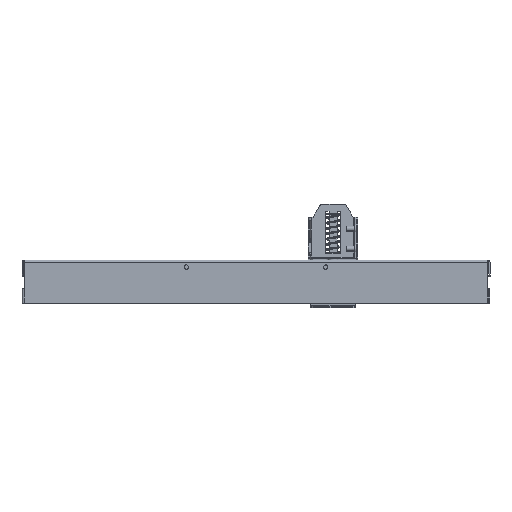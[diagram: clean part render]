
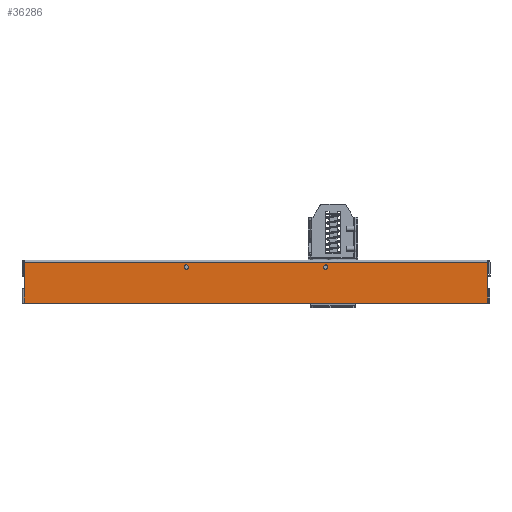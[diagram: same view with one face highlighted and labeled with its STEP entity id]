
A CAD part, front view. The second image highlights one B-rep face of the part: STEP entity #36286.
In plain terms, the highlighted planar face has unit normal (0, -1, 0).
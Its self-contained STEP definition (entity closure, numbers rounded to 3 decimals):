
#33186=CARTESIAN_POINT(' ',(-232.793,-82.5,-2.1));
#33187=VERTEX_POINT(' ',#33186);
#33201=CARTESIAN_POINT(' ',(232.793,-82.5,-2.1));
#33206=DIRECTION(' ',(-1.,0.,0.));
#33211=VECTOR(' ',#33206,1.);
#33216=LINE('',#33201,#33211);
#33221=CARTESIAN_POINT(' ',(232.793,-82.5,-2.1));
#33222=VERTEX_POINT(' ',#33221);
#33226=EDGE_CURVE(' ',#33222,#33187,#33216,.T.);
#35896=DIRECTION(' ',(0.,-1.,0.));
#35901=CARTESIAN_POINT(' ',(-232.793,-82.5,-2.1));
#35906=DIRECTION(' ',(0.,0.,-1.));
#35911=AXIS2_PLACEMENT_3D(' ',#35901,#35896,#35906);
#35916=PLANE('NONE',#35911);
#35921=CARTESIAN_POINT(' ',(-232.793,-82.5,-43.5));
#35926=DIRECTION(' ',(0.,0.,1.));
#35931=VECTOR(' ',#35926,1.);
#35936=LINE('',#35921,#35931);
#35941=CARTESIAN_POINT(' ',(-232.793,-82.5,-43.5));
#35942=VERTEX_POINT(' ',#35941);
#35946=CARTESIAN_POINT(' ',(-232.793,-82.5,-28.5));
#35947=VERTEX_POINT(' ',#35946);
#35951=EDGE_CURVE(' ',#35942,#35947,#35936,.T.);
#35956=ORIENTED_EDGE(' ',*,*,#35951,.F.);
#35961=CARTESIAN_POINT(' ',(232.793,-82.5,-43.5));
#35966=DIRECTION(' ',(-1.,0.,0.));
#35971=VECTOR(' ',#35966,1.);
#35976=LINE('',#35961,#35971);
#35981=CARTESIAN_POINT(' ',(232.793,-82.5,-43.5));
#35982=VERTEX_POINT(' ',#35981);
#35986=EDGE_CURVE(' ',#35982,#35942,#35976,.T.);
#35991=ORIENTED_EDGE(' ',*,*,#35986,.F.);
#35996=CARTESIAN_POINT(' ',(232.793,-82.5,-43.5));
#36001=DIRECTION(' ',(0.,0.,1.));
#36006=VECTOR(' ',#36001,1.);
#36011=LINE('',#35996,#36006);
#36016=CARTESIAN_POINT(' ',(232.793,-82.5,-28.5));
#36017=VERTEX_POINT(' ',#36016);
#36021=EDGE_CURVE(' ',#35982,#36017,#36011,.T.);
#36026=ORIENTED_EDGE(' ',*,*,#36021,.T.);
#36031=CARTESIAN_POINT(' ',(232.793,-82.5,-28.5));
#36036=DIRECTION(' ',(0.,0.,1.));
#36041=VECTOR(' ',#36036,1.);
#36046=LINE('',#36031,#36041);
#36051=EDGE_CURVE(' ',#36017,#33222,#36046,.T.);
#36056=ORIENTED_EDGE(' ',*,*,#36051,.T.);
#36061=ORIENTED_EDGE(' ',*,*,#33226,.T.);
#36066=CARTESIAN_POINT(' ',(-232.793,-82.5,-28.5));
#36071=DIRECTION(' ',(0.,0.,1.));
#36076=VECTOR(' ',#36071,1.);
#36081=LINE('',#36066,#36076);
#36086=EDGE_CURVE(' ',#35947,#33187,#36081,.T.);
#36091=ORIENTED_EDGE(' ',*,*,#36086,.F.);
#36096=EDGE_LOOP(' ',(#35956,#35991,#36026,#36056,#36061,#36091));
#36101=FACE_OUTER_BOUND(' ',#36096,.T.);
#36106=CARTESIAN_POINT(' ',(70.,-82.5,-7.));
#36111=DIRECTION(' ',(0.,-1.,0.));
#36116=DIRECTION(' ',(0.,0.,-1.));
#36121=AXIS2_PLACEMENT_3D(' ',#36106,#36111,#36116);
#36126=CIRCLE('',#36121,2.1);
#36131=CARTESIAN_POINT(' ',(70.,-82.5,-9.1));
#36132=VERTEX_POINT(' ',#36131);
#36136=CARTESIAN_POINT(' ',(70.,-82.5,-4.9));
#36137=VERTEX_POINT(' ',#36136);
#36141=EDGE_CURVE(' ',#36132,#36137,#36126,.T.);
#36146=ORIENTED_EDGE(' ',*,*,#36141,.F.);
#36151=CARTESIAN_POINT(' ',(70.,-82.5,-7.));
#36156=DIRECTION(' ',(0.,-1.,0.));
#36161=DIRECTION(' ',(0.,0.,1.));
#36166=AXIS2_PLACEMENT_3D(' ',#36151,#36156,#36161);
#36171=CIRCLE('',#36166,2.1);
#36176=EDGE_CURVE(' ',#36137,#36132,#36171,.T.);
#36181=ORIENTED_EDGE(' ',*,*,#36176,.F.);
#36186=EDGE_LOOP(' ',(#36146,#36181));
#36191=FACE_BOUND(' ',#36186,.T.);
#36196=CARTESIAN_POINT(' ',(-70.,-82.5,-7.));
#36201=DIRECTION(' ',(0.,-1.,0.));
#36206=DIRECTION(' ',(0.,0.,-1.));
#36211=AXIS2_PLACEMENT_3D(' ',#36196,#36201,#36206);
#36216=CIRCLE('',#36211,2.1);
#36221=CARTESIAN_POINT(' ',(-70.,-82.5,-9.1));
#36222=VERTEX_POINT(' ',#36221);
#36226=CARTESIAN_POINT(' ',(-70.,-82.5,-4.9));
#36227=VERTEX_POINT(' ',#36226);
#36231=EDGE_CURVE(' ',#36222,#36227,#36216,.T.);
#36236=ORIENTED_EDGE(' ',*,*,#36231,.F.);
#36241=CARTESIAN_POINT(' ',(-70.,-82.5,-7.));
#36246=DIRECTION(' ',(0.,-1.,0.));
#36251=DIRECTION(' ',(0.,0.,1.));
#36256=AXIS2_PLACEMENT_3D(' ',#36241,#36246,#36251);
#36261=CIRCLE('',#36256,2.1);
#36266=EDGE_CURVE(' ',#36227,#36222,#36261,.T.);
#36271=ORIENTED_EDGE(' ',*,*,#36266,.F.);
#36276=EDGE_LOOP(' ',(#36236,#36271));
#36281=FACE_BOUND(' ',#36276,.T.);
#36286=ADVANCED_FACE('NONE',(#36101,#36191,#36281),#35916,.T.);
